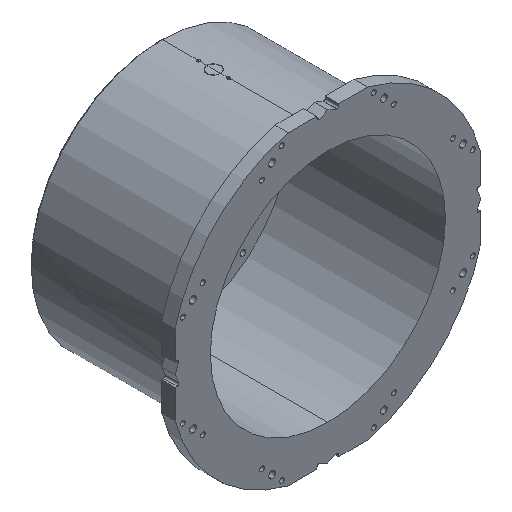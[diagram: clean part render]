
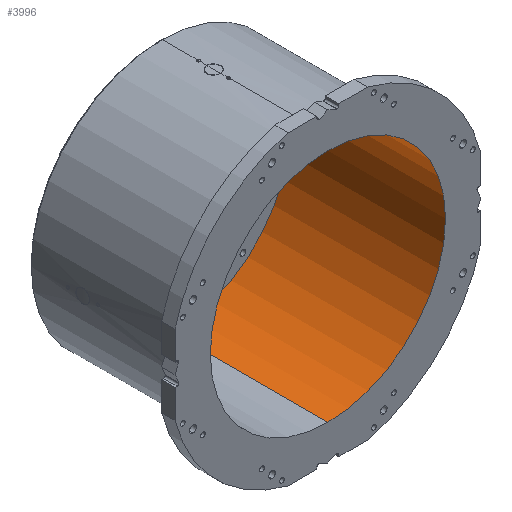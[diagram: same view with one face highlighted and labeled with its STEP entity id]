
A CAD part, isometric view. The second image highlights one B-rep face of the part: STEP entity #3996.
In plain terms, the highlighted cylindrical face has radius 350 mm (diameter 700 mm), a partial arc.
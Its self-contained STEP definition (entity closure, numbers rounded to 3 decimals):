
#33 = ORIENTED_EDGE ( 'NONE', *, *, #7371, .T. ) ;
#205 = CARTESIAN_POINT ( 'NONE',  ( 0., 0., 350. ) ) ;
#506 = VECTOR ( 'NONE', #9084, 1000. ) ;
#1115 = CARTESIAN_POINT ( 'NONE',  ( 0., 0., 0. ) ) ;
#1201 = VERTEX_POINT ( 'NONE', #8812 ) ;
#1250 = EDGE_CURVE ( 'NONE', #6192, #9558, #3812, .T. ) ;
#1380 = CARTESIAN_POINT ( 'NONE',  ( 0., 463., 0. ) ) ;
#2714 = LINE ( 'NONE', #205, #506 ) ;
#2765 = EDGE_LOOP ( 'NONE', ( #6304, #8220, #3017, #33 ) ) ;
#3017 = ORIENTED_EDGE ( 'NONE', *, *, #5873, .T. ) ;
#3169 = AXIS2_PLACEMENT_3D ( 'NONE', #1115, #7666, #10122 ) ;
#3622 = DIRECTION ( 'NONE',  ( 0., 1., 0. ) ) ;
#3812 = LINE ( 'NONE', #7157, #6804 ) ;
#3813 = DIRECTION ( 'NONE',  ( 0., 0., 1. ) ) ;
#3827 = CARTESIAN_POINT ( 'NONE',  ( 0., 463., -350. ) ) ;
#3996 = ADVANCED_FACE ( 'NONE', ( #8403 ), #6055, .F. ) ;
#4772 = VERTEX_POINT ( 'NONE', #5283 ) ;
#5283 = CARTESIAN_POINT ( 'NONE',  ( 0., 463., 350. ) ) ;
#5772 = AXIS2_PLACEMENT_3D ( 'NONE', #1380, #3622, #8526 ) ;
#5873 = EDGE_CURVE ( 'NONE', #1201, #4772, #2714, .T. ) ;
#6051 = AXIS2_PLACEMENT_3D ( 'NONE', #9470, #7916, #3813 ) ;
#6055 = CYLINDRICAL_SURFACE ( 'NONE', #3169, 350. ) ;
#6192 = VERTEX_POINT ( 'NONE', #7987 ) ;
#6304 = ORIENTED_EDGE ( 'NONE', *, *, #1250, .F. ) ;
#6804 = VECTOR ( 'NONE', #8073, 1000. ) ;
#7157 = CARTESIAN_POINT ( 'NONE',  ( 0., 0., -350. ) ) ;
#7371 = EDGE_CURVE ( 'NONE', #4772, #9558, #10403, .T. ) ;
#7666 = DIRECTION ( 'NONE',  ( 0., 1., 0. ) ) ;
#7916 = DIRECTION ( 'NONE',  ( 0., 1., 0. ) ) ;
#7987 = CARTESIAN_POINT ( 'NONE',  ( 0., 0., -350. ) ) ;
#8073 = DIRECTION ( 'NONE',  ( 0., 1., 0. ) ) ;
#8220 = ORIENTED_EDGE ( 'NONE', *, *, #9868, .F. ) ;
#8403 = FACE_OUTER_BOUND ( 'NONE', #2765, .T. ) ;
#8526 = DIRECTION ( 'NONE',  ( 0., 0., 1. ) ) ;
#8812 = CARTESIAN_POINT ( 'NONE',  ( 0., 0., 350. ) ) ;
#9084 = DIRECTION ( 'NONE',  ( 0., 1., 0. ) ) ;
#9470 = CARTESIAN_POINT ( 'NONE',  ( 0., 0., 0. ) ) ;
#9558 = VERTEX_POINT ( 'NONE', #3827 ) ;
#9800 = CIRCLE ( 'NONE', #6051, 350. ) ;
#9868 = EDGE_CURVE ( 'NONE', #1201, #6192, #9800, .T. ) ;
#10122 = DIRECTION ( 'NONE',  ( 0., 0., 1. ) ) ;
#10403 = CIRCLE ( 'NONE', #5772, 350. ) ;
